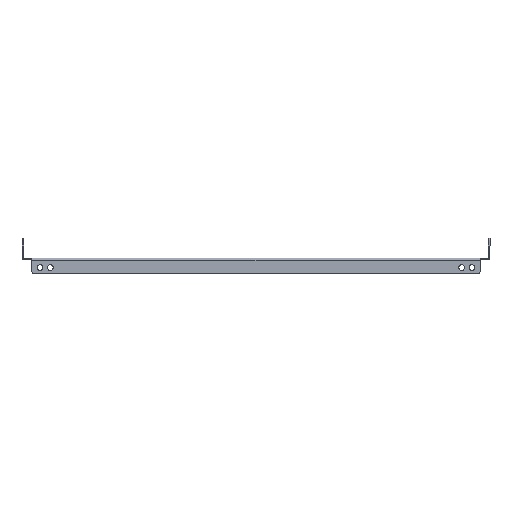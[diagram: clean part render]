
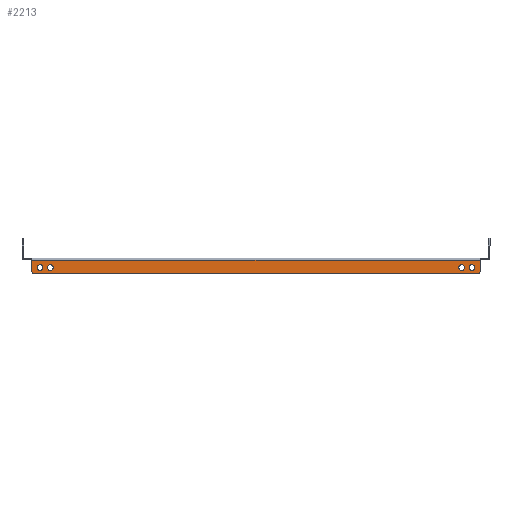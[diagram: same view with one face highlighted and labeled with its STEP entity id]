
A CAD part, left-side view. The second image highlights one B-rep face of the part: STEP entity #2213.
In plain terms, the highlighted planar face has unit normal (-1, 0, 0).
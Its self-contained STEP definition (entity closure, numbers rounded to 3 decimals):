
#18 = ORIENTED_EDGE ( 'NONE', *, *, #533, .F. ) ;
#49 = CARTESIAN_POINT ( 'NONE',  ( -100., 262.5, -13. ) ) ;
#66 = DIRECTION ( 'NONE',  ( 0., 0., 1. ) ) ;
#96 = ORIENTED_EDGE ( 'NONE', *, *, #160, .F. ) ;
#160 = EDGE_CURVE ( 'NONE', #290, #2224, #1497, .T. ) ;
#181 = CARTESIAN_POINT ( 'NONE',  ( -100., -250., -9.5 ) ) ;
#290 = VERTEX_POINT ( 'NONE', #1217 ) ;
#310 = LINE ( 'NONE', #2275, #3797 ) ;
#330 = FACE_OUTER_BOUND ( 'NONE', #1485, .T. ) ;
#336 = EDGE_CURVE ( 'NONE', #684, #2224, #310, .T. ) ;
#372 = EDGE_LOOP ( 'NONE', ( #18, #2530 ) ) ;
#374 = CIRCLE ( 'NONE', #2812, 3.5 ) ;
#376 = DIRECTION ( 'NONE',  ( 0., 0., 1. ) ) ;
#397 = EDGE_CURVE ( 'NONE', #1148, #869, #864, .T. ) ;
#442 = DIRECTION ( 'NONE',  ( -1., 0., 0. ) ) ;
#521 = CIRCLE ( 'NONE', #1084, 3. ) ;
#533 = EDGE_CURVE ( 'NONE', #4328, #538, #3078, .T. ) ;
#538 = VERTEX_POINT ( 'NONE', #1772 ) ;
#581 = CARTESIAN_POINT ( 'NONE',  ( -100., -272.5, -17. ) ) ;
#591 = FACE_BOUND ( 'NONE', #2557, .T. ) ;
#592 = ORIENTED_EDGE ( 'NONE', *, *, #3062, .T. ) ;
#601 = DIRECTION ( 'NONE',  ( -1., 0., 0. ) ) ;
#611 = CARTESIAN_POINT ( 'NONE',  ( -100., 272.5, 0. ) ) ;
#639 = VERTEX_POINT ( 'NONE', #1171 ) ;
#684 = VERTEX_POINT ( 'NONE', #2862 ) ;
#777 = ORIENTED_EDGE ( 'NONE', *, *, #2596, .F. ) ;
#795 = ORIENTED_EDGE ( 'NONE', *, *, #2205, .F. ) ;
#864 = CIRCLE ( 'NONE', #1966, 3.5 ) ;
#869 = VERTEX_POINT ( 'NONE', #1998 ) ;
#917 = CARTESIAN_POINT ( 'NONE',  ( -100., 262.5, -9.5 ) ) ;
#919 = DIRECTION ( 'NONE',  ( 0., 1., 0. ) ) ;
#924 = CARTESIAN_POINT ( 'NONE',  ( -100., 262.5, -9.5 ) ) ;
#930 = VECTOR ( 'NONE', #3123, 1000. ) ;
#941 = ORIENTED_EDGE ( 'NONE', *, *, #3692, .F. ) ;
#946 = DIRECTION ( 'NONE',  ( 0., 0., 1. ) ) ;
#950 = DIRECTION ( 'NONE',  ( 0., 0., 1. ) ) ;
#998 = EDGE_CURVE ( 'NONE', #2163, #1390, #521, .T. ) ;
#1033 = DIRECTION ( 'NONE',  ( -1., 0., 0. ) ) ;
#1053 = DIRECTION ( 'NONE',  ( -1., 0., 0. ) ) ;
#1064 = EDGE_CURVE ( 'NONE', #4196, #1940, #3080, .T. ) ;
#1084 = AXIS2_PLACEMENT_3D ( 'NONE', #4095, #2076, #4113 ) ;
#1146 = CIRCLE ( 'NONE', #1562, 3.5 ) ;
#1148 = VERTEX_POINT ( 'NONE', #4204 ) ;
#1171 = CARTESIAN_POINT ( 'NONE',  ( -100., 269.5, -17. ) ) ;
#1179 = ORIENTED_EDGE ( 'NONE', *, *, #1688, .F. ) ;
#1182 = EDGE_CURVE ( 'NONE', #538, #4328, #374, .T. ) ;
#1197 = CARTESIAN_POINT ( 'NONE',  ( -100., -262.5, -13. ) ) ;
#1217 = CARTESIAN_POINT ( 'NONE',  ( -100., 272.5, -14. ) ) ;
#1228 = LINE ( 'NONE', #581, #2095 ) ;
#1252 = EDGE_CURVE ( 'NONE', #869, #1148, #1146, .T. ) ;
#1264 = ORIENTED_EDGE ( 'NONE', *, *, #397, .F. ) ;
#1282 = FACE_BOUND ( 'NONE', #3019, .T. ) ;
#1332 = VECTOR ( 'NONE', #3387, 1000. ) ;
#1337 = CARTESIAN_POINT ( 'NONE',  ( -100., -262.5, -9.5 ) ) ;
#1350 = DIRECTION ( 'NONE',  ( 0., 0., -1. ) ) ;
#1390 = VERTEX_POINT ( 'NONE', #4070 ) ;
#1394 = EDGE_LOOP ( 'NONE', ( #1179, #3907 ) ) ;
#1409 = LINE ( 'NONE', #3840, #1332 ) ;
#1435 = VERTEX_POINT ( 'NONE', #3391 ) ;
#1443 = DIRECTION ( 'NONE',  ( 0., 0., -1. ) ) ;
#1447 = CARTESIAN_POINT ( 'NONE',  ( -100., -269.5, -17. ) ) ;
#1485 = EDGE_LOOP ( 'NONE', ( #795, #2170, #941, #3359, #96, #592 ) ) ;
#1491 = AXIS2_PLACEMENT_3D ( 'NONE', #1525, #601, #2893 ) ;
#1497 = LINE ( 'NONE', #2454, #930 ) ;
#1525 = CARTESIAN_POINT ( 'NONE',  ( -100., -262.5, -9.5 ) ) ;
#1562 = AXIS2_PLACEMENT_3D ( 'NONE', #3648, #1907, #950 ) ;
#1643 = DIRECTION ( 'NONE',  ( 0., 0., -1. ) ) ;
#1683 = CIRCLE ( 'NONE', #3921, 3.5 ) ;
#1688 = EDGE_CURVE ( 'NONE', #1435, #3073, #3769, .T. ) ;
#1744 = CIRCLE ( 'NONE', #4202, 3. ) ;
#1763 = AXIS2_PLACEMENT_3D ( 'NONE', #181, #442, #1443 ) ;
#1772 = CARTESIAN_POINT ( 'NONE',  ( -100., -250., -13. ) ) ;
#1812 = AXIS2_PLACEMENT_3D ( 'NONE', #611, #4322, #376 ) ;
#1835 = CARTESIAN_POINT ( 'NONE',  ( -100., -262.5, -6. ) ) ;
#1879 = CARTESIAN_POINT ( 'NONE',  ( -100., -250., -6. ) ) ;
#1907 = DIRECTION ( 'NONE',  ( -1., 0., 0. ) ) ;
#1917 = FACE_BOUND ( 'NONE', #372, .T. ) ;
#1927 = CARTESIAN_POINT ( 'NONE',  ( -100., -250., -9.5 ) ) ;
#1940 = VERTEX_POINT ( 'NONE', #1835 ) ;
#1966 = AXIS2_PLACEMENT_3D ( 'NONE', #3744, #1033, #3010 ) ;
#1998 = CARTESIAN_POINT ( 'NONE',  ( -100., 250., -13. ) ) ;
#2076 = DIRECTION ( 'NONE',  ( -1., 0., 0. ) ) ;
#2095 = VECTOR ( 'NONE', #3183, 1000. ) ;
#2163 = VERTEX_POINT ( 'NONE', #1447 ) ;
#2170 = ORIENTED_EDGE ( 'NONE', *, *, #998, .T. ) ;
#2205 = EDGE_CURVE ( 'NONE', #2163, #639, #1409, .T. ) ;
#2212 = EDGE_CURVE ( 'NONE', #3073, #1435, #3914, .T. ) ;
#2213 = ADVANCED_FACE ( 'NONE', ( #591, #1917, #1282, #3632, #330 ), #2630, .T. ) ;
#2224 = VERTEX_POINT ( 'NONE', #2649 ) ;
#2247 = DIRECTION ( 'NONE',  ( -1., 0., 0. ) ) ;
#2275 = CARTESIAN_POINT ( 'NONE',  ( -100., 272.5, -0.6 ) ) ;
#2454 = CARTESIAN_POINT ( 'NONE',  ( -100., 272.5, 0. ) ) ;
#2530 = ORIENTED_EDGE ( 'NONE', *, *, #1182, .F. ) ;
#2557 = EDGE_LOOP ( 'NONE', ( #777, #2868 ) ) ;
#2596 = EDGE_CURVE ( 'NONE', #1940, #4196, #1683, .T. ) ;
#2617 = DIRECTION ( 'NONE',  ( -1., 0., 0. ) ) ;
#2630 = PLANE ( 'NONE',  #1812 ) ;
#2649 = CARTESIAN_POINT ( 'NONE',  ( -100., 272.5, -0.6 ) ) ;
#2666 = ORIENTED_EDGE ( 'NONE', *, *, #1252, .F. ) ;
#2812 = AXIS2_PLACEMENT_3D ( 'NONE', #1927, #3572, #1350 ) ;
#2862 = CARTESIAN_POINT ( 'NONE',  ( -100., -272.5, -0.6 ) ) ;
#2868 = ORIENTED_EDGE ( 'NONE', *, *, #1064, .F. ) ;
#2893 = DIRECTION ( 'NONE',  ( 0., 0., -1. ) ) ;
#3010 = DIRECTION ( 'NONE',  ( 0., 0., 1. ) ) ;
#3019 = EDGE_LOOP ( 'NONE', ( #1264, #2666 ) ) ;
#3049 = CARTESIAN_POINT ( 'NONE',  ( -100., 269.5, -14. ) ) ;
#3062 = EDGE_CURVE ( 'NONE', #290, #639, #1744, .T. ) ;
#3073 = VERTEX_POINT ( 'NONE', #49 ) ;
#3078 = CIRCLE ( 'NONE', #1763, 3.5 ) ;
#3080 = CIRCLE ( 'NONE', #1491, 3.5 ) ;
#3123 = DIRECTION ( 'NONE',  ( 0., 0., 1. ) ) ;
#3183 = DIRECTION ( 'NONE',  ( 0., 0., -1. ) ) ;
#3359 = ORIENTED_EDGE ( 'NONE', *, *, #336, .T. ) ;
#3387 = DIRECTION ( 'NONE',  ( 0., 1., 0. ) ) ;
#3391 = CARTESIAN_POINT ( 'NONE',  ( -100., 262.5, -6. ) ) ;
#3572 = DIRECTION ( 'NONE',  ( -1., 0., 0. ) ) ;
#3589 = DIRECTION ( 'NONE',  ( 0., 0., 1. ) ) ;
#3632 = FACE_BOUND ( 'NONE', #1394, .T. ) ;
#3648 = CARTESIAN_POINT ( 'NONE',  ( -100., 250., -9.5 ) ) ;
#3652 = DIRECTION ( 'NONE',  ( -1., 0., 0. ) ) ;
#3692 = EDGE_CURVE ( 'NONE', #684, #1390, #1228, .T. ) ;
#3707 = AXIS2_PLACEMENT_3D ( 'NONE', #917, #2247, #3589 ) ;
#3744 = CARTESIAN_POINT ( 'NONE',  ( -100., 250., -9.5 ) ) ;
#3769 = CIRCLE ( 'NONE', #4265, 3.5 ) ;
#3797 = VECTOR ( 'NONE', #919, 1000. ) ;
#3840 = CARTESIAN_POINT ( 'NONE',  ( -100., 272.5, -17. ) ) ;
#3907 = ORIENTED_EDGE ( 'NONE', *, *, #2212, .F. ) ;
#3914 = CIRCLE ( 'NONE', #3707, 3.5 ) ;
#3921 = AXIS2_PLACEMENT_3D ( 'NONE', #1337, #3652, #1643 ) ;
#4070 = CARTESIAN_POINT ( 'NONE',  ( -100., -272.5, -14. ) ) ;
#4095 = CARTESIAN_POINT ( 'NONE',  ( -100., -269.5, -14. ) ) ;
#4113 = DIRECTION ( 'NONE',  ( 0., 0., 1. ) ) ;
#4196 = VERTEX_POINT ( 'NONE', #1197 ) ;
#4202 = AXIS2_PLACEMENT_3D ( 'NONE', #3049, #1053, #66 ) ;
#4204 = CARTESIAN_POINT ( 'NONE',  ( -100., 250., -6. ) ) ;
#4265 = AXIS2_PLACEMENT_3D ( 'NONE', #924, #2617, #946 ) ;
#4322 = DIRECTION ( 'NONE',  ( -1., 0., 0. ) ) ;
#4328 = VERTEX_POINT ( 'NONE', #1879 ) ;
